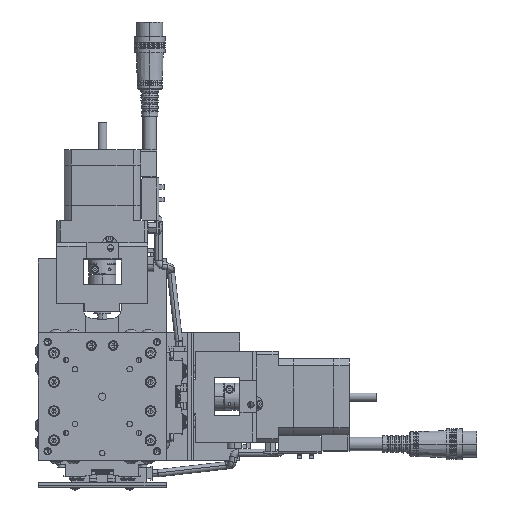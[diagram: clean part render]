
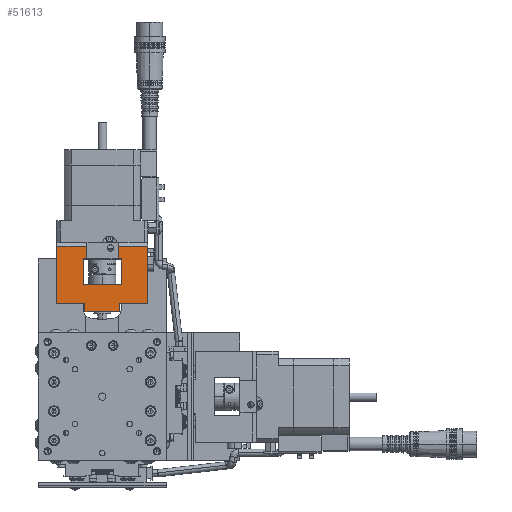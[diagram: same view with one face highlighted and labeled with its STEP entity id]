
A CAD part, top view. The second image highlights one B-rep face of the part: STEP entity #51613.
In plain terms, the highlighted planar face has unit normal (0, 0, 1).
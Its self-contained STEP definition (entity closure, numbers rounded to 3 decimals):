
#1310 = VECTOR ( 'NONE', #17417, 1000. ) ;
#3957 = CARTESIAN_POINT ( 'NONE',  ( -285.53, 15.775, -249.221 ) ) ;
#4147 = VERTEX_POINT ( 'NONE', #36360 ) ;
#4182 = DIRECTION ( 'NONE',  ( -1., 0., 0. ) ) ;
#5379 = CARTESIAN_POINT ( 'NONE',  ( -299.53, 1.275, -249.221 ) ) ;
#5576 = EDGE_CURVE ( 'NONE', #7974, #107660, #60764, .T. ) ;
#6525 = VECTOR ( 'NONE', #70223, 1000. ) ;
#7974 = VERTEX_POINT ( 'NONE', #97974 ) ;
#7982 = EDGE_CURVE ( 'NONE', #68286, #123574, #15967, .T. ) ;
#8554 = EDGE_CURVE ( 'NONE', #14384, #47526, #110212, .T. ) ;
#10873 = LINE ( 'NONE', #22290, #67904 ) ;
#10916 = VECTOR ( 'NONE', #25506, 1000. ) ;
#11666 = ORIENTED_EDGE ( 'NONE', *, *, #7982, .T. ) ;
#13015 = VECTOR ( 'NONE', #118956, 1000. ) ;
#14384 = VERTEX_POINT ( 'NONE', #96403 ) ;
#15967 = LINE ( 'NONE', #59917, #113458 ) ;
#17333 = ORIENTED_EDGE ( 'NONE', *, *, #116103, .T. ) ;
#17417 = DIRECTION ( 'NONE',  ( 1., 0., 0. ) ) ;
#18663 = EDGE_CURVE ( 'NONE', #118220, #85107, #112021, .T. ) ;
#19191 = VERTEX_POINT ( 'NONE', #79484 ) ;
#22290 = CARTESIAN_POINT ( 'NONE',  ( -306.53, 34.975, -249.221 ) ) ;
#22355 = CARTESIAN_POINT ( 'NONE',  ( -299.53, 17.575, -249.221 ) ) ;
#22389 = CARTESIAN_POINT ( 'NONE',  ( -306.53, 1.275, -249.221 ) ) ;
#23843 = CARTESIAN_POINT ( 'NONE',  ( -306.53, 51.275, -249.221 ) ) ;
#25506 = DIRECTION ( 'NONE',  ( 1., 0., 0. ) ) ;
#26925 = CARTESIAN_POINT ( 'NONE',  ( -299.53, 15.775, -249.221 ) ) ;
#27043 = DIRECTION ( 'NONE',  ( 0., 0., 1. ) ) ;
#27782 = DIRECTION ( 'NONE',  ( -1., 0., 0. ) ) ;
#27940 = ORIENTED_EDGE ( 'NONE', *, *, #94251, .T. ) ;
#28178 = CARTESIAN_POINT ( 'NONE',  ( -272.78, 16.775, -249.221 ) ) ;
#31677 = LINE ( 'NONE', #100020, #70723 ) ;
#31931 = EDGE_LOOP ( 'NONE', ( #57688, #83516, #61225, #45737, #96522, #27940, #32599, #11666, #51612, #61900, #17333, #102763, #90054, #110383, #92850, #46923 ) ) ;
#32599 = ORIENTED_EDGE ( 'NONE', *, *, #71410, .F. ) ;
#34087 = CARTESIAN_POINT ( 'NONE',  ( -275.03, 35.775, -249.221 ) ) ;
#36360 = CARTESIAN_POINT ( 'NONE',  ( -275.03, 51.275, -249.221 ) ) ;
#37912 = VECTOR ( 'NONE', #4182, 1000. ) ;
#40531 = EDGE_CURVE ( 'NONE', #75010, #118646, #102898, .T. ) ;
#41362 = CARTESIAN_POINT ( 'NONE',  ( -306.53, 34.975, -249.221 ) ) ;
#42289 = AXIS2_PLACEMENT_3D ( 'NONE', #56376, #27043, #46759 ) ;
#42808 = DIRECTION ( 'NONE',  ( 1., 0., 0. ) ) ;
#42892 = EDGE_CURVE ( 'NONE', #60894, #92286, #10873, .T. ) ;
#43030 = DIRECTION ( 'NONE',  ( 0., 1., 0. ) ) ;
#44484 = CARTESIAN_POINT ( 'NONE',  ( -299.53, 51.275, -249.221 ) ) ;
#45724 = VECTOR ( 'NONE', #74499, 1000. ) ;
#45737 = ORIENTED_EDGE ( 'NONE', *, *, #40531, .T. ) ;
#46047 = VECTOR ( 'NONE', #91683, 1000. ) ;
#46759 = DIRECTION ( 'NONE',  ( 1., 0., 0. ) ) ;
#46923 = ORIENTED_EDGE ( 'NONE', *, *, #80581, .T. ) ;
#47526 = VERTEX_POINT ( 'NONE', #52769 ) ;
#47969 = LINE ( 'NONE', #44484, #106389 ) ;
#51249 = DIRECTION ( 'NONE',  ( 0., -1., 0. ) ) ;
#51612 = ORIENTED_EDGE ( 'NONE', *, *, #73507, .F. ) ;
#51613 = ADVANCED_FACE ( 'NONE', ( #96481 ), #85300, .T. ) ;
#52769 = CARTESIAN_POINT ( 'NONE',  ( -306.53, 1.275, -249.221 ) ) ;
#53099 = CARTESIAN_POINT ( 'NONE',  ( -299.53, 36.775, -249.221 ) ) ;
#55562 = VECTOR ( 'NONE', #103030, 1000. ) ;
#56376 = CARTESIAN_POINT ( 'NONE',  ( -299.53, 51.275, -249.221 ) ) ;
#57688 = ORIENTED_EDGE ( 'NONE', *, *, #86768, .F. ) ;
#59917 = CARTESIAN_POINT ( 'NONE',  ( -299.53, 1.275, -249.221 ) ) ;
#60764 = LINE ( 'NONE', #83316, #45724 ) ;
#60894 = VERTEX_POINT ( 'NONE', #23843 ) ;
#61225 = ORIENTED_EDGE ( 'NONE', *, *, #90746, .F. ) ;
#61900 = ORIENTED_EDGE ( 'NONE', *, *, #8554, .T. ) ;
#64033 = DIRECTION ( 'NONE',  ( 0., 1., 0. ) ) ;
#67904 = VECTOR ( 'NONE', #51249, 1000. ) ;
#68286 = VERTEX_POINT ( 'NONE', #26925 ) ;
#70037 = CARTESIAN_POINT ( 'NONE',  ( -304.03, 34.975, -249.221 ) ) ;
#70223 = DIRECTION ( 'NONE',  ( 0., -1., 0. ) ) ;
#70645 = CARTESIAN_POINT ( 'NONE',  ( -285.53, 45.025, -249.221 ) ) ;
#70723 = VECTOR ( 'NONE', #90355, 1000. ) ;
#70944 = LINE ( 'NONE', #121021, #10916 ) ;
#71279 = VECTOR ( 'NONE', #99085, 1000. ) ;
#71410 = EDGE_CURVE ( 'NONE', #68286, #118059, #86845, .T. ) ;
#73507 = EDGE_CURVE ( 'NONE', #14384, #123574, #115551, .T. ) ;
#74499 = DIRECTION ( 'NONE',  ( 0., 1., 0. ) ) ;
#75010 = VERTEX_POINT ( 'NONE', #95782 ) ;
#77724 = EDGE_CURVE ( 'NONE', #118646, #112033, #70944, .T. ) ;
#79228 = VECTOR ( 'NONE', #64033, 1000. ) ;
#79484 = CARTESIAN_POINT ( 'NONE',  ( -270.53, 16.775, -249.221 ) ) ;
#80581 = EDGE_CURVE ( 'NONE', #118220, #4147, #110738, .T. ) ;
#82430 = CARTESIAN_POINT ( 'NONE',  ( -275.03, 45.025, -249.221 ) ) ;
#83193 = CARTESIAN_POINT ( 'NONE',  ( -299.53, 15.775, -249.221 ) ) ;
#83316 = CARTESIAN_POINT ( 'NONE',  ( -275.03, 45.025, -249.221 ) ) ;
#83516 = ORIENTED_EDGE ( 'NONE', *, *, #42892, .T. ) ;
#84251 = EDGE_CURVE ( 'NONE', #19191, #107660, #118988, .T. ) ;
#85107 = VERTEX_POINT ( 'NONE', #119844 ) ;
#85300 = PLANE ( 'NONE',  #42289 ) ;
#86768 = EDGE_CURVE ( 'NONE', #60894, #4147, #47969, .T. ) ;
#86845 = LINE ( 'NONE', #83193, #1310 ) ;
#89206 = CARTESIAN_POINT ( 'NONE',  ( -272.78, 35.775, -249.221 ) ) ;
#90054 = ORIENTED_EDGE ( 'NONE', *, *, #84251, .F. ) ;
#90355 = DIRECTION ( 'NONE',  ( 0., -1., 0. ) ) ;
#90746 = EDGE_CURVE ( 'NONE', #75010, #92286, #123397, .T. ) ;
#90908 = LINE ( 'NONE', #5379, #13015 ) ;
#91683 = DIRECTION ( 'NONE',  ( 1., 0., 0. ) ) ;
#92064 = CARTESIAN_POINT ( 'NONE',  ( -275.03, 16.775, -249.221 ) ) ;
#92072 = CARTESIAN_POINT ( 'NONE',  ( -285.53, 36.775, -249.221 ) ) ;
#92286 = VERTEX_POINT ( 'NONE', #41362 ) ;
#92850 = ORIENTED_EDGE ( 'NONE', *, *, #18663, .F. ) ;
#93341 = CARTESIAN_POINT ( 'NONE',  ( -304.03, 17.575, -249.221 ) ) ;
#94251 = EDGE_CURVE ( 'NONE', #112033, #118059, #109965, .T. ) ;
#95782 = CARTESIAN_POINT ( 'NONE',  ( -299.53, 34.975, -249.221 ) ) ;
#96403 = CARTESIAN_POINT ( 'NONE',  ( -306.53, 17.575, -249.221 ) ) ;
#96481 = FACE_OUTER_BOUND ( 'NONE', #31931, .T. ) ;
#96522 = ORIENTED_EDGE ( 'NONE', *, *, #77724, .T. ) ;
#97974 = CARTESIAN_POINT ( 'NONE',  ( -275.03, 1.275, -249.221 ) ) ;
#98394 = DIRECTION ( 'NONE',  ( 0., 1., 0. ) ) ;
#99085 = DIRECTION ( 'NONE',  ( 0., -1., 0. ) ) ;
#100020 = CARTESIAN_POINT ( 'NONE',  ( -270.53, 26.275, -249.221 ) ) ;
#100985 = VECTOR ( 'NONE', #27782, 1000. ) ;
#102763 = ORIENTED_EDGE ( 'NONE', *, *, #5576, .T. ) ;
#102898 = LINE ( 'NONE', #111708, #122355 ) ;
#103030 = DIRECTION ( 'NONE',  ( 1., 0., 0. ) ) ;
#106389 = VECTOR ( 'NONE', #42808, 1000. ) ;
#107660 = VERTEX_POINT ( 'NONE', #92064 ) ;
#109965 = LINE ( 'NONE', #70645, #6525 ) ;
#110212 = LINE ( 'NONE', #22389, #71279 ) ;
#110383 = ORIENTED_EDGE ( 'NONE', *, *, #118471, .F. ) ;
#110738 = LINE ( 'NONE', #82430, #79228 ) ;
#111708 = CARTESIAN_POINT ( 'NONE',  ( -299.53, 34.975, -249.221 ) ) ;
#112021 = LINE ( 'NONE', #89206, #46047 ) ;
#112033 = VERTEX_POINT ( 'NONE', #92072 ) ;
#113458 = VECTOR ( 'NONE', #98394, 1000. ) ;
#115551 = LINE ( 'NONE', #93341, #55562 ) ;
#116103 = EDGE_CURVE ( 'NONE', #47526, #7974, #90908, .T. ) ;
#118059 = VERTEX_POINT ( 'NONE', #3957 ) ;
#118220 = VERTEX_POINT ( 'NONE', #34087 ) ;
#118471 = EDGE_CURVE ( 'NONE', #85107, #19191, #31677, .T. ) ;
#118646 = VERTEX_POINT ( 'NONE', #53099 ) ;
#118956 = DIRECTION ( 'NONE',  ( 1., 0., 0. ) ) ;
#118988 = LINE ( 'NONE', #28178, #100985 ) ;
#119844 = CARTESIAN_POINT ( 'NONE',  ( -270.53, 35.775, -249.221 ) ) ;
#121021 = CARTESIAN_POINT ( 'NONE',  ( -299.53, 36.775, -249.221 ) ) ;
#122355 = VECTOR ( 'NONE', #43030, 1000. ) ;
#123397 = LINE ( 'NONE', #70037, #37912 ) ;
#123574 = VERTEX_POINT ( 'NONE', #22355 ) ;
